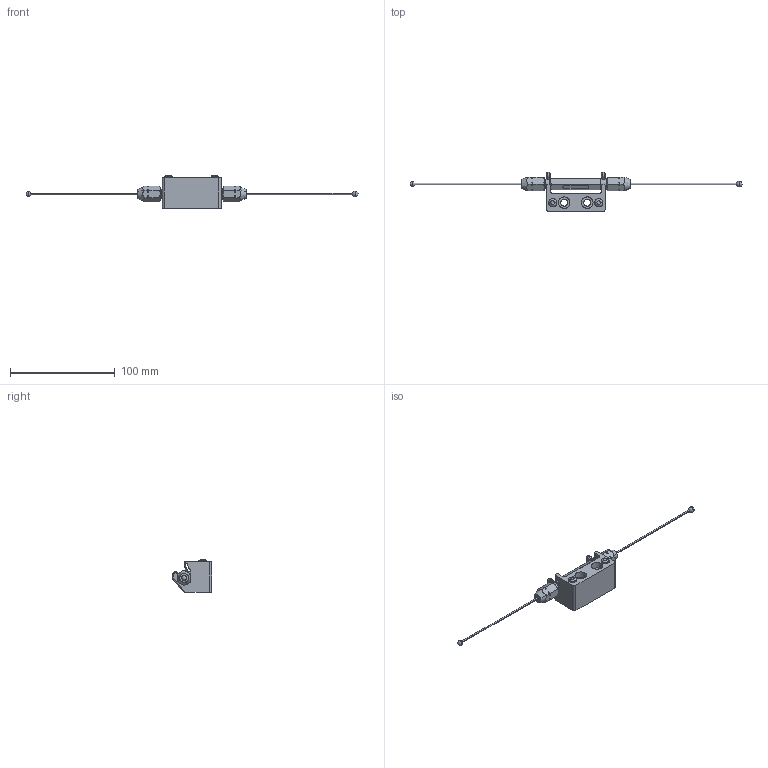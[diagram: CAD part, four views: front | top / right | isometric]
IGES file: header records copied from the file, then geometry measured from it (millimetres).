
Start section: VISI Layer Mapping Iges    VISI  0      LAYER0  1      LAYER1  2      WARNINGS
Global section: file name: D:\Videoschnitt\Borgiform\TS.igs; native system: VISI 2017 R1; preprocessor: 2.0; author: Dirk; organization: Unknown; date: 20251007.202710; units: millimetre
Bounding box: 317 x 37.46 x 31.5 mm (x, y, z)
Surface area: 19260.1 mm2 (no closed solid volume)
Topology: 0 solids, 0 shells, 785 faces, 5498 edges, 5486 vertices
Faces by surface type: bspline 785
